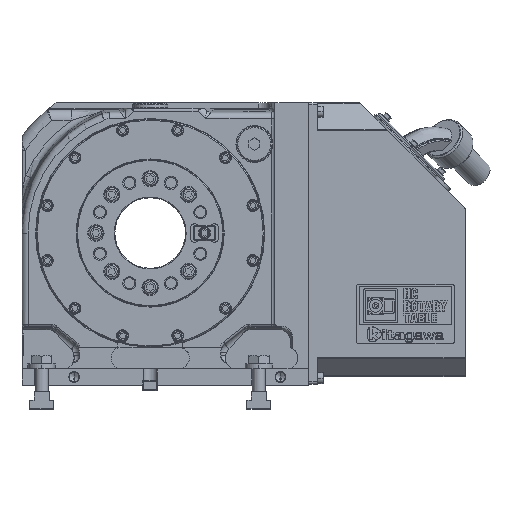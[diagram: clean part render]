
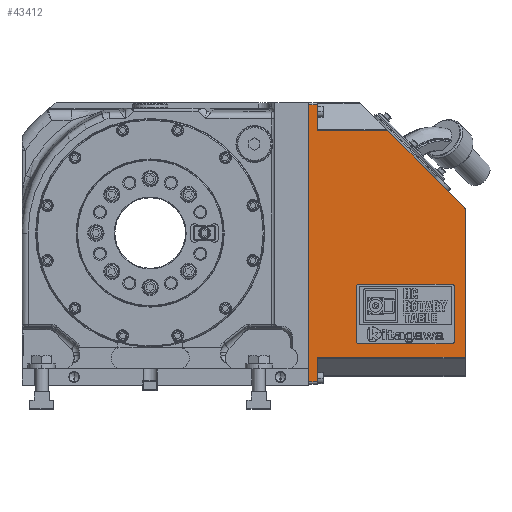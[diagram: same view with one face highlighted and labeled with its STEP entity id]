
A CAD part, top view. The second image highlights one B-rep face of the part: STEP entity #43412.
In plain terms, the highlighted planar face has unit normal (0, 0, 1).
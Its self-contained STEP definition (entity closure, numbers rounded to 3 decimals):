
#351 = EDGE_CURVE ( 'NONE', #113056, #94991, #1144, .T. ) ;
#838 = CARTESIAN_POINT ( 'NONE',  ( 144., 24.828, 0. ) ) ;
#1144 = LINE ( 'NONE', #47828, #46282 ) ;
#1194 = EDGE_LOOP ( 'NONE', ( #76730, #87615, #14461, #14916, #35738, #37750, #84445, #34663, #65910, #107713 ) ) ;
#2478 = DIRECTION ( 'NONE',  ( 0., -1., 0. ) ) ;
#3117 = EDGE_CURVE ( 'NONE', #68507, #106425, #59399, .T. ) ;
#3663 = VECTOR ( 'NONE', #72285, 1000. ) ;
#6779 = EDGE_CURVE ( 'NONE', #93809, #45967, #37954, .T. ) ;
#8284 = VERTEX_POINT ( 'NONE', #107538 ) ;
#8568 = VECTOR ( 'NONE', #29398, 1000. ) ;
#8766 = VERTEX_POINT ( 'NONE', #79075 ) ;
#11010 = DIRECTION ( 'NONE',  ( -1., 0., 0. ) ) ;
#11698 = CARTESIAN_POINT ( 'NONE',  ( 0., 0., 0. ) ) ;
#12158 = CARTESIAN_POINT ( 'NONE',  ( 142., 161.172, 0. ) ) ;
#13644 = DIRECTION ( 'NONE',  ( 0., -1., 0. ) ) ;
#14461 = ORIENTED_EDGE ( 'NONE', *, *, #88999, .F. ) ;
#14916 = ORIENTED_EDGE ( 'NONE', *, *, #33728, .T. ) ;
#15368 = CARTESIAN_POINT ( 'NONE',  ( 0., 257., 0. ) ) ;
#19673 = CARTESIAN_POINT ( 'NONE',  ( 8., 0., 0. ) ) ;
#21231 = DIRECTION ( 'NONE',  ( -1., 0., 0. ) ) ;
#25090 = CARTESIAN_POINT ( 'NONE',  ( 8., 257., 0. ) ) ;
#25119 = DIRECTION ( 'NONE',  ( 0., -1., 0. ) ) ;
#25792 = LINE ( 'NONE', #78894, #70910 ) ;
#27696 = LINE ( 'NONE', #67619, #96856 ) ;
#29398 = DIRECTION ( 'NONE',  ( 0., -1., 0. ) ) ;
#31172 = AXIS2_PLACEMENT_3D ( 'NONE', #12158, #75279, #21231 ) ;
#33728 = EDGE_CURVE ( 'NONE', #8284, #53084, #53764, .T. ) ;
#33946 = DIRECTION ( 'NONE',  ( 1., 0., 0. ) ) ;
#34663 = ORIENTED_EDGE ( 'NONE', *, *, #65215, .T. ) ;
#35623 = VECTOR ( 'NONE', #25119, 1000. ) ;
#35738 = ORIENTED_EDGE ( 'NONE', *, *, #75011, .F. ) ;
#37750 = ORIENTED_EDGE ( 'NONE', *, *, #6779, .T. ) ;
#37954 = LINE ( 'NONE', #46383, #85903 ) ;
#38706 = LINE ( 'NONE', #112117, #86647 ) ;
#40073 = DIRECTION ( 'NONE',  ( 1., 0., 0. ) ) ;
#41737 = EDGE_CURVE ( 'NONE', #113056, #57804, #25792, .T. ) ;
#43412 = ADVANCED_FACE ( 'NONE', ( #108291 ), #109915, .F. ) ;
#43905 = CARTESIAN_POINT ( 'NONE',  ( 8., 24.828, 0. ) ) ;
#45967 = VERTEX_POINT ( 'NONE', #71753 ) ;
#46282 = VECTOR ( 'NONE', #2478, 1000. ) ;
#46383 = CARTESIAN_POINT ( 'NONE',  ( 8., 233.172, 0. ) ) ;
#47828 = CARTESIAN_POINT ( 'NONE',  ( 8., 0., 0. ) ) ;
#53084 = VERTEX_POINT ( 'NONE', #64157 ) ;
#53764 = CIRCLE ( 'NONE', #31172, 2. ) ;
#57286 = LINE ( 'NONE', #90377, #3663 ) ;
#57804 = VERTEX_POINT ( 'NONE', #838 ) ;
#59236 = CARTESIAN_POINT ( 'NONE',  ( 72.828, 233.172, 0. ) ) ;
#59399 = LINE ( 'NONE', #11698, #8568 ) ;
#62478 = EDGE_CURVE ( 'NONE', #106425, #94991, #38706, .T. ) ;
#62908 = DIRECTION ( 'NONE',  ( -1., 0., 0. ) ) ;
#63665 = CARTESIAN_POINT ( 'NONE',  ( 0., 2., 0. ) ) ;
#64157 = CARTESIAN_POINT ( 'NONE',  ( 143.414, 162.586, 0. ) ) ;
#64999 = DIRECTION ( 'NONE',  ( 0., 0., -1. ) ) ;
#65215 = EDGE_CURVE ( 'NONE', #8766, #68507, #95713, .T. ) ;
#65910 = ORIENTED_EDGE ( 'NONE', *, *, #3117, .T. ) ;
#67619 = CARTESIAN_POINT ( 'NONE',  ( 8., 0., 0. ) ) ;
#68507 = VERTEX_POINT ( 'NONE', #15368 ) ;
#70910 = VECTOR ( 'NONE', #33946, 1000. ) ;
#70918 = LINE ( 'NONE', #115288, #35623 ) ;
#71753 = CARTESIAN_POINT ( 'NONE',  ( 8., 233.172, 0. ) ) ;
#72285 = DIRECTION ( 'NONE',  ( 0.707, -0.707, 0. ) ) ;
#73220 = DIRECTION ( 'NONE',  ( -1., 0., 0. ) ) ;
#75011 = EDGE_CURVE ( 'NONE', #93809, #53084, #57286, .T. ) ;
#75279 = DIRECTION ( 'NONE',  ( 0., 0., 1. ) ) ;
#76730 = ORIENTED_EDGE ( 'NONE', *, *, #351, .F. ) ;
#78894 = CARTESIAN_POINT ( 'NONE',  ( 8., 24.828, 0. ) ) ;
#79075 = CARTESIAN_POINT ( 'NONE',  ( 8., 257., 0. ) ) ;
#84445 = ORIENTED_EDGE ( 'NONE', *, *, #114412, .F. ) ;
#85903 = VECTOR ( 'NONE', #73220, 1000. ) ;
#86647 = VECTOR ( 'NONE', #40073, 1000. ) ;
#87615 = ORIENTED_EDGE ( 'NONE', *, *, #41737, .T. ) ;
#88999 = EDGE_CURVE ( 'NONE', #8284, #57804, #70918, .T. ) ;
#90377 = CARTESIAN_POINT ( 'NONE',  ( 47., 259., 0. ) ) ;
#92872 = VECTOR ( 'NONE', #62908, 1000. ) ;
#93809 = VERTEX_POINT ( 'NONE', #59236 ) ;
#94991 = VERTEX_POINT ( 'NONE', #111319 ) ;
#95713 = LINE ( 'NONE', #25090, #92872 ) ;
#96856 = VECTOR ( 'NONE', #13644, 1000. ) ;
#106425 = VERTEX_POINT ( 'NONE', #63665 ) ;
#107538 = CARTESIAN_POINT ( 'NONE',  ( 144., 161.172, 0. ) ) ;
#107713 = ORIENTED_EDGE ( 'NONE', *, *, #62478, .T. ) ;
#108291 = FACE_OUTER_BOUND ( 'NONE', #1194, .T. ) ;
#109915 = PLANE ( 'NONE',  #112682 ) ;
#111319 = CARTESIAN_POINT ( 'NONE',  ( 8., 2., 0. ) ) ;
#112117 = CARTESIAN_POINT ( 'NONE',  ( 8., 2., 0. ) ) ;
#112682 = AXIS2_PLACEMENT_3D ( 'NONE', #19673, #64999, #11010 ) ;
#113056 = VERTEX_POINT ( 'NONE', #43905 ) ;
#114412 = EDGE_CURVE ( 'NONE', #8766, #45967, #27696, .T. ) ;
#115288 = CARTESIAN_POINT ( 'NONE',  ( 144., 234., 0. ) ) ;
